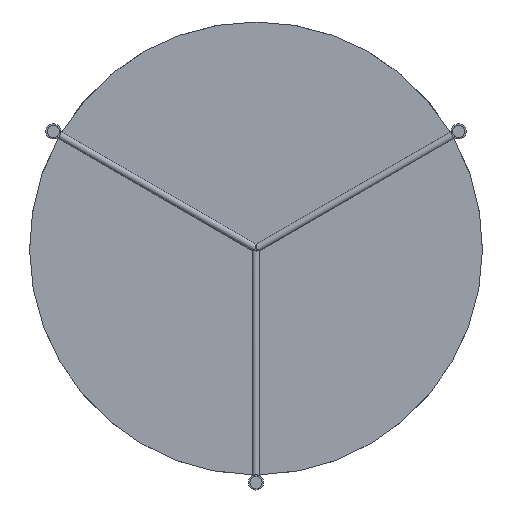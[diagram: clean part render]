
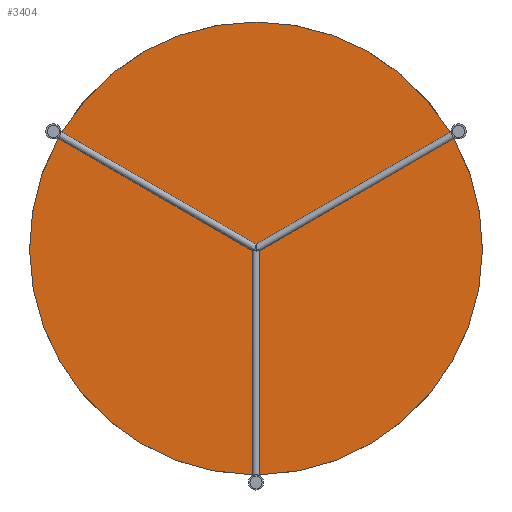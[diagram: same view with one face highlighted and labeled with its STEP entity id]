
A CAD part, front view. The second image highlights one B-rep face of the part: STEP entity #3404.
In plain terms, the highlighted planar face has unit normal (0, -1, 0).
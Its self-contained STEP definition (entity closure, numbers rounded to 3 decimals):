
#19 = VECTOR ( 'NONE', #4206, 1000. ) ;
#55 = CARTESIAN_POINT ( 'NONE',  ( -6., 451., -302.07 ) ) ;
#83 = AXIS2_PLACEMENT_3D ( 'NONE', #3812, #4535, #1390 ) ;
#92 = AXIS2_PLACEMENT_3D ( 'NONE', #1134, #3509, #3189 ) ;
#140 = VERTEX_POINT ( 'NONE', #4025 ) ;
#241 = AXIS2_PLACEMENT_3D ( 'NONE', #2539, #2154, #1433 ) ;
#246 = VERTEX_POINT ( 'NONE', #1603 ) ;
#285 = ORIENTED_EDGE ( 'NONE', *, *, #3383, .T. ) ;
#321 = EDGE_CURVE ( 'NONE', #1268, #1874, #2384, .T. ) ;
#406 = VERTEX_POINT ( 'NONE', #668 ) ;
#490 = DIRECTION ( 'NONE',  ( 0., -1., 0. ) ) ;
#522 = VECTOR ( 'NONE', #551, 1000. ) ;
#551 = DIRECTION ( 'NONE',  ( -0.866, 0., 0.5 ) ) ;
#579 = DIRECTION ( 'NONE',  ( 0., 0., -1. ) ) ;
#592 = CARTESIAN_POINT ( 'NONE',  ( -265.528, 451., 160.231 ) ) ;
#615 = CIRCLE ( 'NONE', #92, 300. ) ;
#616 = LINE ( 'NONE', #3850, #19 ) ;
#633 = EDGE_CURVE ( 'NONE', #406, #2029, #1276, .T. ) ;
#668 = CARTESIAN_POINT ( 'NONE',  ( 258.6, 451., 156.231 ) ) ;
#745 = DIRECTION ( 'NONE',  ( 0., 1., 0. ) ) ;
#771 = DIRECTION ( 'NONE',  ( 0., 1., 0. ) ) ;
#802 = ORIENTED_EDGE ( 'NONE', *, *, #956, .T. ) ;
#909 = CARTESIAN_POINT ( 'NONE',  ( -262.756, 451., 144.774 ) ) ;
#914 = DIRECTION ( 'NONE',  ( -0.866, 0., -0.5 ) ) ;
#956 = EDGE_CURVE ( 'NONE', #246, #2472, #2794, .T. ) ;
#990 = VERTEX_POINT ( 'NONE', #2097 ) ;
#1029 = VECTOR ( 'NONE', #914, 1000. ) ;
#1064 = ORIENTED_EDGE ( 'NONE', *, *, #3282, .T. ) ;
#1098 = ORIENTED_EDGE ( 'NONE', *, *, #3104, .T. ) ;
#1114 = CARTESIAN_POINT ( 'NONE',  ( 256.756, 451., 155.166 ) ) ;
#1134 = CARTESIAN_POINT ( 'NONE',  ( 0., 451., 0. ) ) ;
#1191 = CIRCLE ( 'NONE', #1267, 10. ) ;
#1203 = EDGE_CURVE ( 'NONE', #2472, #990, #1898, .T. ) ;
#1267 = AXIS2_PLACEMENT_3D ( 'NONE', #2538, #745, #3560 ) ;
#1268 = VERTEX_POINT ( 'NONE', #4019 ) ;
#1269 = CARTESIAN_POINT ( 'NONE',  ( 0., 451., 0. ) ) ;
#1276 = LINE ( 'NONE', #4386, #1029 ) ;
#1280 = AXIS2_PLACEMENT_3D ( 'NONE', #1475, #771, #1773 ) ;
#1309 = CARTESIAN_POINT ( 'NONE',  ( 262.756, 451., 144.774 ) ) ;
#1325 = CARTESIAN_POINT ( 'NONE',  ( 264.6, 451., 145.839 ) ) ;
#1338 = CARTESIAN_POINT ( 'NONE',  ( -256.756, 451., 155.166 ) ) ;
#1343 = ORIENTED_EDGE ( 'NONE', *, *, #1837, .T. ) ;
#1362 = EDGE_CURVE ( 'NONE', #140, #3077, #2797, .T. ) ;
#1390 = DIRECTION ( 'NONE',  ( 0., 0., -1. ) ) ;
#1414 = CARTESIAN_POINT ( 'NONE',  ( -6., 451., -299.94 ) ) ;
#1430 = VERTEX_POINT ( 'NONE', #1414 ) ;
#1432 = LINE ( 'NONE', #1772, #4505 ) ;
#1433 = DIRECTION ( 'NONE',  ( 0., 0., -1. ) ) ;
#1466 = ORIENTED_EDGE ( 'NONE', *, *, #1905, .T. ) ;
#1475 = CARTESIAN_POINT ( 'NONE',  ( 0., 451., -310.07 ) ) ;
#1559 = DIRECTION ( 'NONE',  ( 0.866, 0., -0.5 ) ) ;
#1603 = CARTESIAN_POINT ( 'NONE',  ( 0., 451., 300. ) ) ;
#1675 = ORIENTED_EDGE ( 'NONE', *, *, #1362, .T. ) ;
#1692 = EDGE_CURVE ( 'NONE', #3077, #2242, #1432, .T. ) ;
#1772 = CARTESIAN_POINT ( 'NONE',  ( 271.528, 451., 149.839 ) ) ;
#1773 = DIRECTION ( 'NONE',  ( 0., 0., -1. ) ) ;
#1779 = AXIS2_PLACEMENT_3D ( 'NONE', #3086, #2733, #2420 ) ;
#1837 = EDGE_CURVE ( 'NONE', #990, #1268, #1191, .T. ) ;
#1854 = CIRCLE ( 'NONE', #1779, 10. ) ;
#1874 = VERTEX_POINT ( 'NONE', #3944 ) ;
#1898 = LINE ( 'NONE', #592, #522 ) ;
#1905 = EDGE_CURVE ( 'NONE', #1430, #2095, #3731, .T. ) ;
#1913 = VECTOR ( 'NONE', #1559, 1000. ) ;
#2007 = ORIENTED_EDGE ( 'NONE', *, *, #633, .T. ) ;
#2029 = VERTEX_POINT ( 'NONE', #1114 ) ;
#2095 = VERTEX_POINT ( 'NONE', #55 ) ;
#2097 = CARTESIAN_POINT ( 'NONE',  ( -258.6, 451., 156.231 ) ) ;
#2105 = EDGE_CURVE ( 'NONE', #2029, #246, #4080, .T. ) ;
#2116 = ORIENTED_EDGE ( 'NONE', *, *, #3357, .T. ) ;
#2128 = FACE_OUTER_BOUND ( 'NONE', #3976, .T. ) ;
#2154 = DIRECTION ( 'NONE',  ( 0., -1., 0. ) ) ;
#2242 = VERTEX_POINT ( 'NONE', #1325 ) ;
#2384 = LINE ( 'NONE', #909, #1913 ) ;
#2420 = DIRECTION ( 'NONE',  ( 0., 0., -1. ) ) ;
#2472 = VERTEX_POINT ( 'NONE', #1338 ) ;
#2485 = VERTEX_POINT ( 'NONE', #3463 ) ;
#2538 = CARTESIAN_POINT ( 'NONE',  ( -268.528, 451., 155.035 ) ) ;
#2539 = CARTESIAN_POINT ( 'NONE',  ( 0., 451., 0. ) ) ;
#2675 = CIRCLE ( 'NONE', #1280, 10. ) ;
#2682 = CARTESIAN_POINT ( 'NONE',  ( -6., 451., -310.07 ) ) ;
#2733 = DIRECTION ( 'NONE',  ( 0., 1., 0. ) ) ;
#2757 = ORIENTED_EDGE ( 'NONE', *, *, #321, .T. ) ;
#2794 = CIRCLE ( 'NONE', #4429, 300. ) ;
#2797 = CIRCLE ( 'NONE', #83, 300. ) ;
#2802 = VECTOR ( 'NONE', #4122, 1000. ) ;
#3077 = VERTEX_POINT ( 'NONE', #1309 ) ;
#3086 = CARTESIAN_POINT ( 'NONE',  ( 268.528, 451., 155.035 ) ) ;
#3104 = EDGE_CURVE ( 'NONE', #2242, #406, #1854, .T. ) ;
#3189 = DIRECTION ( 'NONE',  ( 0., 0., -1. ) ) ;
#3282 = EDGE_CURVE ( 'NONE', #2485, #140, #616, .T. ) ;
#3311 = DIRECTION ( 'NONE',  ( 0., 0., -1. ) ) ;
#3357 = EDGE_CURVE ( 'NONE', #1874, #1430, #615, .T. ) ;
#3383 = EDGE_CURVE ( 'NONE', #2095, #2485, #2675, .T. ) ;
#3403 = AXIS2_PLACEMENT_3D ( 'NONE', #3660, #490, #3311 ) ;
#3404 = ADVANCED_FACE ( 'NONE', ( #2128 ), #3586, .T. ) ;
#3463 = CARTESIAN_POINT ( 'NONE',  ( 6., 451., -302.07 ) ) ;
#3492 = DIRECTION ( 'NONE',  ( 0.866, 0., 0.5 ) ) ;
#3509 = DIRECTION ( 'NONE',  ( 0., -1., 0. ) ) ;
#3560 = DIRECTION ( 'NONE',  ( 0., 0., -1. ) ) ;
#3586 = PLANE ( 'NONE',  #241 ) ;
#3660 = CARTESIAN_POINT ( 'NONE',  ( 0., 451., 0. ) ) ;
#3731 = LINE ( 'NONE', #2682, #2802 ) ;
#3745 = DIRECTION ( 'NONE',  ( 0., -1., 0. ) ) ;
#3812 = CARTESIAN_POINT ( 'NONE',  ( 0., 451., 0. ) ) ;
#3850 = CARTESIAN_POINT ( 'NONE',  ( 6., 451., -299.94 ) ) ;
#3944 = CARTESIAN_POINT ( 'NONE',  ( -262.756, 451., 144.774 ) ) ;
#3976 = EDGE_LOOP ( 'NONE', ( #4470, #1343, #2757, #2116, #1466, #285, #1064, #1675, #4344, #1098, #2007, #4546, #802 ) ) ;
#4019 = CARTESIAN_POINT ( 'NONE',  ( -264.6, 451., 145.839 ) ) ;
#4025 = CARTESIAN_POINT ( 'NONE',  ( 6., 451., -299.94 ) ) ;
#4080 = CIRCLE ( 'NONE', #3403, 300. ) ;
#4122 = DIRECTION ( 'NONE',  ( 0., 0., -1. ) ) ;
#4206 = DIRECTION ( 'NONE',  ( 0., 0., 1. ) ) ;
#4344 = ORIENTED_EDGE ( 'NONE', *, *, #1692, .T. ) ;
#4386 = CARTESIAN_POINT ( 'NONE',  ( 256.756, 451., 155.166 ) ) ;
#4429 = AXIS2_PLACEMENT_3D ( 'NONE', #1269, #3745, #579 ) ;
#4470 = ORIENTED_EDGE ( 'NONE', *, *, #1203, .T. ) ;
#4505 = VECTOR ( 'NONE', #3492, 1000. ) ;
#4535 = DIRECTION ( 'NONE',  ( 0., -1., 0. ) ) ;
#4546 = ORIENTED_EDGE ( 'NONE', *, *, #2105, .T. ) ;
